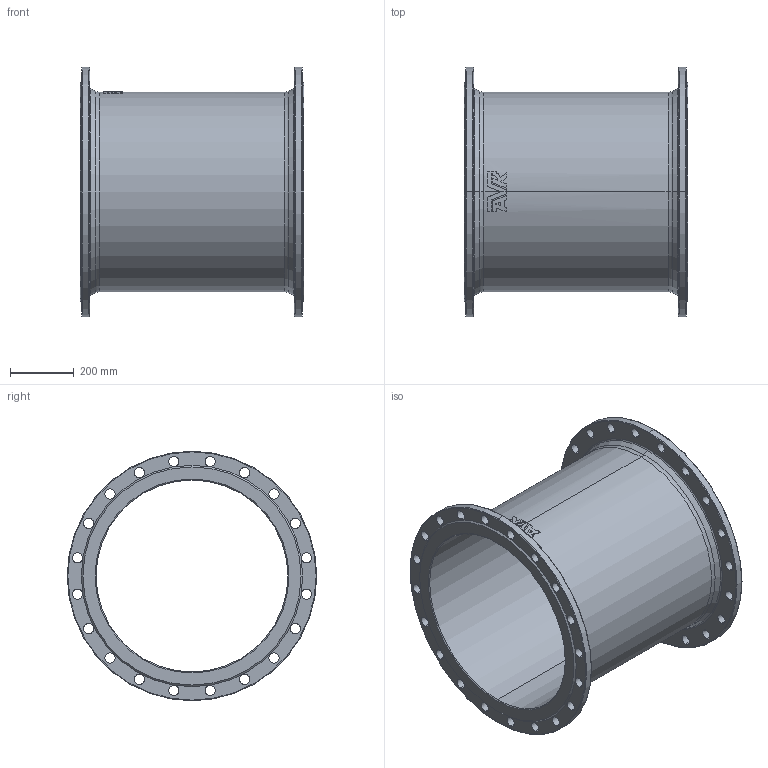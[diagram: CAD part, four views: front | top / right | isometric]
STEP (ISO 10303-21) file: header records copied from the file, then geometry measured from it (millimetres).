
FILE_DESCRIPTION (( 'STEP AP203' ), '1' );
FILE_NAME ('O_712_5010_DN600_0X_REV01.step', '2021-12-03T10:25:52', ( '' ), ( '' ), 'SwSTEP 2.0', 'SolidWorks 2019', '' );
FILE_SCHEMA (( 'CONFIG_CONTROL_DESIGN' ));
Length unit declared in the file: millimetre
Products named in the file (1): O_712_5010_DN600_0X_REV01
Bounding box: 700 x 780 x 780 mm (x, y, z)
Volume: 25210597.9 mm3; surface area: 3423276 mm2
Topology: 1 solids, 1 shells, 164 faces, 439 edges, 284 vertices
Faces by surface type: cylinder 93, plane 26, bspline 17, torus 16, cone 12
Entity records: 6232 total; most frequent: CARTESIAN_POINT 1765, DIRECTION 959, ORIENTED_EDGE 878, EDGE_CURVE 439, AXIS2_PLACEMENT_3D 406, VERTEX_POINT 284, CIRCLE 258, EDGE_LOOP 253
